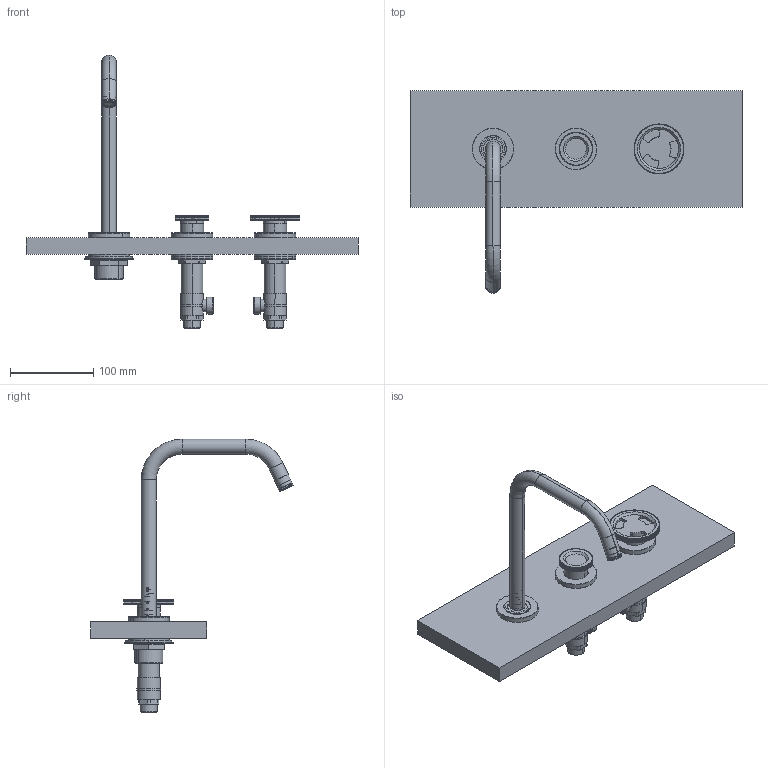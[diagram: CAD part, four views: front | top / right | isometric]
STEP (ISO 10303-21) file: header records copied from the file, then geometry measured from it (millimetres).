
FILE_DESCRIPTION (( 'STEP AP203' ), '1' );
FILE_NAME ('TIB13C.STEP', '2018-05-31T09:46:36', ( '' ), ( '' ), 'SwSTEP 2.0', 'SolidWorks 2014', '' );
FILE_SCHEMA (( 'CONFIG_CONTROL_DESIGN' ));
Length unit declared in the file: millimetre
Products named in the file (36): GRANCO M4x3 ACCIAIO; EU1463_1; TOP X 3 FORI  BAGNO; OR212ACS; AS541_01; PIANTL2619; EU0649_0; OR992262ACS; EU1478_1; AS542_01; eu01_rondella_gomma_spugna; GRANCO M5x6 ACCIAIO; EU1472_0; VITOCER008; eu01_flangia_sagomata; AERA161INC; EU1474_1; TAPPHITO01; EU1470_2; AS544_00; RONDG50342; EU0029_1; DADO2619H5; FISS_PIANT; CTO2C; EU1464_1; eu01_dado_esa_x_codolo; EU0648_1; AS545_00; TIB13C; VITOCER002; RONDG50272; EU1477_1; eu01_rondella_gomma; FISSGECO001; RONDIX5027
Assembly tree (44 placements, depth 4):
  TIB13C
    TOP X 3 FORI  BAGNO
    AS544_00
      PIANTL2619
      VITOCER002
      EU1477_1
      GRANCO M5x6 ACCIAIO
      AS542_01
        EU1474_1
        EU1464_1
      EU1478_1
      TAPPHITO01
    AS545_00
      PIANTL2619
      VITOCER008
      EU1477_1
      GRANCO M5x6 ACCIAIO
      AS541_01
        EU1474_1
        EU1463_1
      EU1478_1
      TAPPHITO01
    CTO2C
      EU0029_1
      OR212ACS
      EU1470_2
      EU1472_0
      EU0648_1
      EU0649_0  x2
      OR992262ACS  x2
      GRANCO M4x3 ACCIAIO
      AERA161INC
    FISS_PIANT  x2
      DADO2619H5
      RONDIX5027
      RONDG50342
      RONDG50272
    FISSGECO001
      eu01_flangia_sagomata
      eu01_rondella_gomma
      eu01_rondella_gomma_spugna
      eu01_dado_esa_x_codolo
Bounding box: 400 x 244.09 x 329.67 mm (x, y, z)
Volume: 1327825.1 mm3; surface area: 303991.2 mm2
Topology: 40 solids, 40 shells, 2466 faces, 6573 edges, 4278 vertices
Faces by surface type: plane 1293, cylinder 841, cone 222, torus 60, bspline 38, sphere 12
Entity records: 73573 total; most frequent: CARTESIAN_POINT 14721, DIRECTION 11670, ORIENTED_EDGE 11454, EDGE_CURVE 5727, AXIS2_PLACEMENT_3D 3918, LINE 3834, VECTOR 3834, VERTEX_POINT 3740
